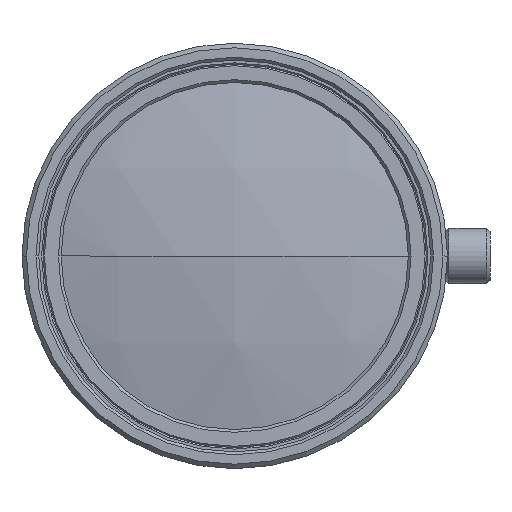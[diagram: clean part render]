
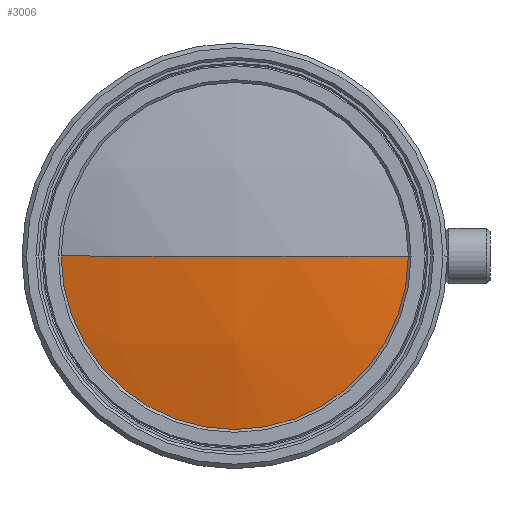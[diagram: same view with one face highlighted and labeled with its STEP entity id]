
A CAD part, left-side view. The second image highlights one B-rep face of the part: STEP entity #3006.
In plain terms, the highlighted spherical face has radius 66.5 mm.
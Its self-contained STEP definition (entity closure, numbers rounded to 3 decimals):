
#173 = DIRECTION ( 'NONE',  ( 0., 1., 0. ) ) ;
#235 = ORIENTED_EDGE ( 'NONE', *, *, #3501, .F. ) ;
#485 = VERTEX_POINT ( 'NONE', #2918 ) ;
#596 = AXIS2_PLACEMENT_3D ( 'NONE', #2124, #1861, #173 ) ;
#606 = VERTEX_POINT ( 'NONE', #1841 ) ;
#716 = EDGE_LOOP ( 'NONE', ( #1426, #1027, #235 ) ) ;
#952 = DIRECTION ( 'NONE',  ( -1., 0., 0. ) ) ;
#1010 = AXIS2_PLACEMENT_3D ( 'NONE', #1226, #952, #3183 ) ;
#1027 = ORIENTED_EDGE ( 'NONE', *, *, #3674, .T. ) ;
#1039 = AXIS2_PLACEMENT_3D ( 'NONE', #2516, #1384, #1664 ) ;
#1120 = CIRCLE ( 'NONE', #1010, 15.5 ) ;
#1201 = FACE_OUTER_BOUND ( 'NONE', #716, .T. ) ;
#1226 = CARTESIAN_POINT ( 'NONE',  ( -13.097, 50., 0. ) ) ;
#1384 = DIRECTION ( 'NONE',  ( 0., 0., -1. ) ) ;
#1426 = ORIENTED_EDGE ( 'NONE', *, *, #2262, .T. ) ;
#1664 = DIRECTION ( 'NONE',  ( 0., 1., 0. ) ) ;
#1841 = CARTESIAN_POINT ( 'NONE',  ( -14.928, 50., 0. ) ) ;
#1861 = DIRECTION ( 'NONE',  ( 0., 0., -1. ) ) ;
#1871 = SPHERICAL_SURFACE ( 'NONE', #1039, 66.5 ) ;
#2124 = CARTESIAN_POINT ( 'NONE',  ( 51.572, 50., 0. ) ) ;
#2160 = DIRECTION ( 'NONE',  ( 1., 0., 0. ) ) ;
#2259 = CARTESIAN_POINT ( 'NONE',  ( -13.097, 65.5, 0. ) ) ;
#2262 = EDGE_CURVE ( 'NONE', #2804, #485, #1120, .T. ) ;
#2443 = DIRECTION ( 'NONE',  ( 0., 0., 1. ) ) ;
#2516 = CARTESIAN_POINT ( 'NONE',  ( 51.572, 50., 0. ) ) ;
#2621 = AXIS2_PLACEMENT_3D ( 'NONE', #2777, #2443, #2160 ) ;
#2777 = CARTESIAN_POINT ( 'NONE',  ( 51.572, 50., 0. ) ) ;
#2804 = VERTEX_POINT ( 'NONE', #2259 ) ;
#2809 = CIRCLE ( 'NONE', #2621, 66.5 ) ;
#2918 = CARTESIAN_POINT ( 'NONE',  ( -13.097, 34.5, 0. ) ) ;
#3006 = ADVANCED_FACE ( 'NONE', ( #1201 ), #1871, .T. ) ;
#3153 = CIRCLE ( 'NONE', #596, 66.5 ) ;
#3183 = DIRECTION ( 'NONE',  ( 0., -1., 0. ) ) ;
#3501 = EDGE_CURVE ( 'NONE', #2804, #606, #2809, .T. ) ;
#3674 = EDGE_CURVE ( 'NONE', #485, #606, #3153, .T. ) ;
